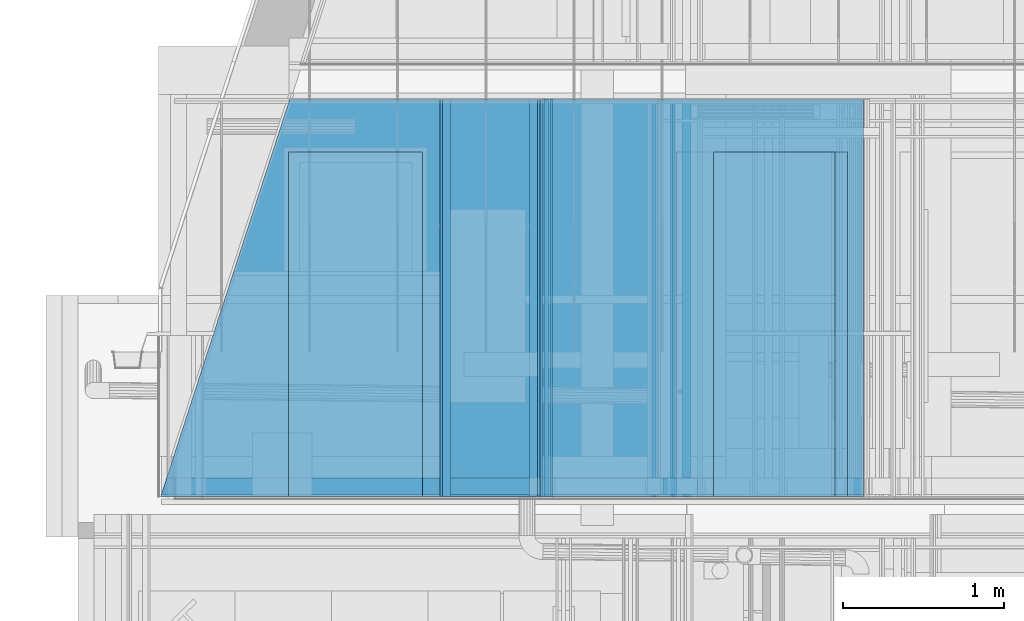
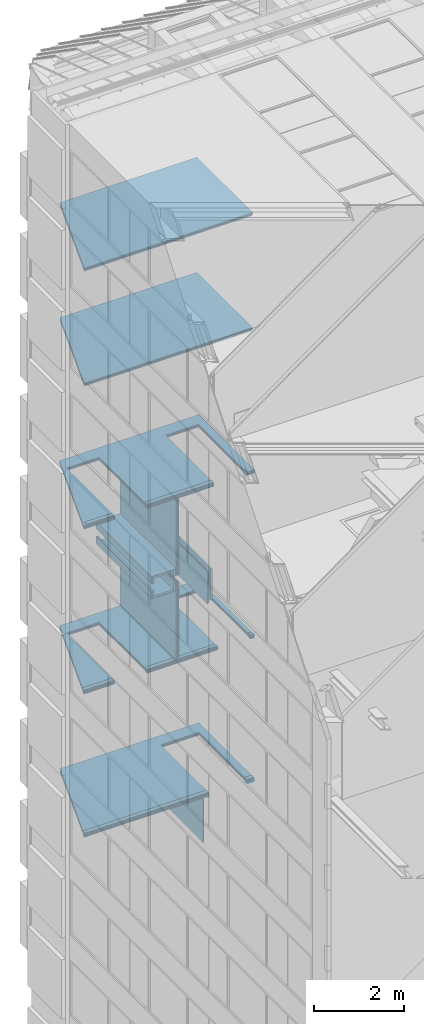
# One storey, part 135 of 583: 49 building element parts, 5 openings, 15 elements without a shape of their own.
"""IFC2X3 building model written with IfcOpenShell, lengths in metres."""

import ifcopenshell
import ifcopenshell.guid

model = None  # the IFC model being written
_history = None  # IfcOwnerHistory: only IFC2X3 demands one
_inside = {}  # id of a spatial element -> (the spatial element, [elements in it])
_under = {}  # id of a project, library or spatial element -> (it, [spatial elements below it])
_declared = {}  # id of a project -> (the project, [libraries it declares])
_typed = {}  # id of a type object -> (the type object, [elements of that type])
_made_of = {}  # id of a material, layer set ... -> (it, [elements and type objects made of it])


def new_model(schema):
    """Start an empty IFC model of exactly this schema.

    Asked for "IFC4X3", IfcOpenShell would pick the latest addendum, in which some entities
    have other attributes; the version numbers below select the first issue.
    IFC2X3 requires an IfcOwnerHistory on every rooted entity: one is made here for all.
    """
    global model, _history
    if schema == "IFC4X3":
        model = ifcopenshell.file(schema_version=(4, 3, 0, 0))
    else:
        model = ifcopenshell.file(schema=schema)
    _inside.clear()
    _under.clear()
    _declared.clear()
    _typed.clear()
    _made_of.clear()
    _history = None
    if model.schema == "IFC2X3":
        org = make("IfcOrganization", Name="unknown")
        user = make(
            "IfcPersonAndOrganization",
            ThePerson=make("IfcPerson", FamilyName="unknown"),
            TheOrganization=org,
        )
        app = make(
            "IfcApplication",
            ApplicationDeveloper=org,
            Version="unknown",
            ApplicationFullName="unknown",
            ApplicationIdentifier="unknown",
        )
        _history = make(
            "IfcOwnerHistory",
            OwningUser=user,
            OwningApplication=app,
            ChangeAction="ADDED",
            CreationDate=0,
        )
    return model


def make(cls, **values):
    """One entity of the class cls with the attributes given. An attribute that is None is left unset."""
    return model.create_entity(
        cls, **{name: value for name, value in values.items() if value is not None}
    )


def entity(cls, *values):
    """Any entity or typed value of the class cls, its attributes in the order of the schema. None: left unset."""
    e = model.create_entity(cls)
    for i, value in enumerate(values):
        if value is not None:
            e[i] = value
    return e


def rooted(cls, **values):
    """An entity with a GlobalId (a new one), such as an element, a storey or a relation."""
    return make(cls, GlobalId=ifcopenshell.guid.new(), OwnerHistory=_history, **values)


def si_unit(unit_type, name, prefix=None):
    """IfcSIUnit, for example si_unit("LENGTHUNIT", "METRE", prefix="MILLI")."""
    return make("IfcSIUnit", UnitType=unit_type, Prefix=prefix, Name=name)


def converted_unit(unit_type, name, factor, base, dimensions=None, offset=None):
    """IfcConversionBasedUnit, such as the inch: factor (a typed value) times the base unit."""
    return make(
        "IfcConversionBasedUnit"
        if offset is None
        else "IfcConversionBasedUnitWithOffset",
        ConversionOffset=offset,
        Dimensions=None
        if dimensions is None
        else entity("IfcDimensionalExponents", *dimensions),
        UnitType=unit_type,
        Name=name,
        ConversionFactor=make(
            "IfcMeasureWithUnit", ValueComponent=factor, UnitComponent=base
        ),
    )


def derived_unit(unit_type, elements):
    """IfcDerivedUnit: a product of units, each with its exponent."""
    return make(
        "IfcDerivedUnit",
        Elements=[
            make("IfcDerivedUnitElement", Unit=unit, Exponent=power)
            for unit, power in elements
        ],
        UnitType=unit_type,
    )


def money_unit(currency):
    """IfcMonetaryUnit."""
    return make("IfcMonetaryUnit", Currency=currency)


def assignment(units):
    """IfcUnitAssignment: the units of a project."""
    return None if units is None else make("IfcUnitAssignment", Units=units)


def point(xyz):
    """IfcCartesianPoint."""
    return None if xyz is None else make("IfcCartesianPoint", Coordinates=xyz)


def direction(xyz):
    """IfcDirection."""
    return None if xyz is None else make("IfcDirection", DirectionRatios=xyz)


def frame(location, z_axis=None, x_axis=None):
    """IfcAxis2Placement3D, a coordinate frame: its origin and axes. An axis left out is left unset."""
    return make(
        "IfcAxis2Placement3D",
        Location=point(location),
        Axis=direction(z_axis),
        RefDirection=direction(x_axis),
    )


def frame_2d(location, x_axis=None):
    """IfcAxis2Placement2D, a coordinate frame in the plane: its origin and x axis."""
    return make(
        "IfcAxis2Placement2D", Location=point(location), RefDirection=direction(x_axis)
    )


def origin_with_axes():
    """The frame at (0, 0, 0) with the z axis (0, 0, 1) and the x axis (1, 0, 0) written out."""
    return frame((0.0, 0.0, 0.0), z_axis=(0.0, 0.0, 1.0), x_axis=(1.0, 0.0, 0.0))


def place(relative_to, where):
    """IfcLocalPlacement: puts the frame where relative to a parent placement (None: the world)."""
    return make(
        "IfcLocalPlacement", PlacementRelTo=relative_to, RelativePlacement=where
    )


def context(
    kind, dimensions, precision=None, world=None, true_north=None, identifier=None
):
    """IfcGeometricRepresentationContext, for example the 3D "Model" context."""
    return make(
        "IfcGeometricRepresentationContext",
        ContextIdentifier=identifier,
        ContextType=kind,
        CoordinateSpaceDimension=dimensions,
        Precision=precision,
        WorldCoordinateSystem=world,
        TrueNorth=true_north,
    )


def subcontext(parent, identifier, kind, view, scale=None):
    """IfcGeometricRepresentationSubContext, for example "Body" below "Model"."""
    return make(
        "IfcGeometricRepresentationSubContext",
        ContextIdentifier=identifier,
        ContextType=kind,
        ParentContext=parent,
        TargetScale=scale,
        TargetView=view,
    )


def project(units=None, contexts=None):
    """IfcProject with its units and contexts."""
    return rooted(
        "IfcProject",
        Name="project",
        RepresentationContexts=contexts,
        UnitsInContext=assignment(units),
    )


def spatial(cls, under=None, at=None, **own):
    """A site, building, storey or space (cls), placed at a placement, below another one or the project."""
    s = rooted(cls, ObjectPlacement=at, **own)
    if under is not None:
        _under.setdefault(under.id(), (under, []))[1].append(s)
    return s


def polyline(points):
    """IfcPolyline through the points."""
    return make("IfcPolyline", Points=[point(p) for p in points])


def profile(cls, at=None, kind="AREA", **sizes):
    """A parametric profile (cls). Its sizes go by their IFC names, for example OverallWidth=200.0."""
    return make(cls, ProfileType=kind, Position=at, **sizes)


def rectangle(**sizes):
    """IfcRectangleProfileDef."""
    return profile("IfcRectangleProfileDef", **sizes)


def outline(outer, holes=None, kind="AREA"):
    """IfcArbitraryClosedProfileDef: a profile drawn as a closed curve; with holes, ...WithVoids."""
    if holes is None:
        return make("IfcArbitraryClosedProfileDef", ProfileType=kind, OuterCurve=outer)
    return make(
        "IfcArbitraryProfileDefWithVoids",
        ProfileType=kind,
        OuterCurve=outer,
        InnerCurves=holes,
    )


def extrude(swept, where, along, depth):
    """IfcExtrudedAreaSolid: the profile swept, set in the frame where, extruded along a direction by depth."""
    return make(
        "IfcExtrudedAreaSolid",
        SweptArea=swept,
        Position=where,
        ExtrudedDirection=direction(along),
        Depth=depth,
    )


def clip(a, b, op="DIFFERENCE"):
    """IfcBooleanClippingResult: the solid a cut by the half space b."""
    return make(
        "IfcBooleanClippingResult", Operator=op, FirstOperand=a, SecondOperand=b
    )


def halfspace(plane, agree):
    """IfcHalfSpaceSolid: all space on one side of the plane z = 0 of the frame plane."""
    return make(
        "IfcHalfSpaceSolid",
        BaseSurface=make("IfcPlane", Position=plane),
        AgreementFlag=agree,
    )


def shape(context_of_items, identifier, shape_type, items):
    """IfcShapeRepresentation: the items that make up one representation, for example the "Body"."""
    return make(
        "IfcShapeRepresentation",
        ContextOfItems=context_of_items,
        RepresentationIdentifier=identifier,
        RepresentationType=shape_type,
        Items=items,
    )


def material(Name=None, Category=None):
    """IfcMaterial."""
    return make("IfcMaterial", Name=Name, Category=Category)


def made_of(thing, what):
    """Note that an element or type object is made of a material, layer set ...; save() writes the relation."""
    if what is not None:
        _made_of.setdefault(what.id(), (what, []))[1].append(thing)
    return thing


def type_object(cls, material=None, **own):
    """A type object (cls), such as IfcWallType, which elements share."""
    return made_of(rooted(cls, **own), material)


def element(
    cls,
    number,
    at=None,
    inside=None,
    cuts=None,
    type_object=None,
    material=None,
    context=None,
    identifier="Body",
    shape_type=None,
    held_by="IfcProductDefinitionShape",
    body=None,
    shapes=None,
    **own,
):
    """One element of the class cls, such as IfcWall. Its Tag is "e" and its number.

    at: its placement. inside: the storey or other place that contains it. cuts: it is an
    opening in that element (IfcRelVoidsElement). A single representation is given by context,
    identifier, shape_type and body (its items); several are given by shapes. held_by: the class
    of the entity that holds the representations. save() writes the other relations.
    """
    e = rooted(cls, Tag="e%d" % number, ObjectPlacement=at, **own)
    if body is not None:
        shapes = [shape(context, identifier, shape_type, body)]
    if shapes is not None:
        e.Representation = make(held_by, Representations=shapes)
    if inside is not None:
        _inside.setdefault(inside.id(), (inside, []))[1].append(e)
    if cuts is not None:
        rooted(
            "IfcRelVoidsElement", RelatingBuildingElement=cuts, RelatedOpeningElement=e
        )
    if type_object is not None:
        _typed.setdefault(type_object.id(), (type_object, []))[1].append(e)
    return made_of(e, material)


def aggregate(whole, parts):
    """IfcRelAggregates: a whole, such as a stair, and the parts it consists of."""
    return rooted("IfcRelAggregates", RelatingObject=whole, RelatedObjects=parts)


def save(model, path):
    """Write the relations noted so far, then the file.

    IfcRelAggregates (storeys below a building ...), IfcRelContainedInSpatialStructure (elements
    in a storey), IfcRelDefinesByType, IfcRelAssociatesMaterial and IfcRelDeclares: one each for
    every whole, place, type object, material and project.
    """
    for whole, parts in _under.values():
        aggregate(whole, parts)
    for where, things in _inside.values():
        rooted(
            "IfcRelContainedInSpatialStructure",
            RelatedElements=things,
            RelatingStructure=where,
        )
    for kind, things in _typed.values():
        rooted("IfcRelDefinesByType", RelatedObjects=things, RelatingType=kind)
    for what, things in _made_of.values():
        rooted("IfcRelAssociatesMaterial", RelatedObjects=things, RelatingMaterial=what)
    for by, libraries in _declared.values():
        rooted("IfcRelDeclares", RelatingContext=by, RelatedDefinitions=libraries)
    model.write(path)


model = new_model("IFC2X3")

# Units and contexts
model_context = context("Model", 3, precision=1e-05, world=origin_with_axes(), true_north=direction((0.0, 1.0)))
body_context = subcontext(model_context, "Body", "Model", "MODEL_VIEW", scale=1.0)
ifc_project = project(units=[si_unit("LENGTHUNIT", "METRE"), si_unit("AREAUNIT", "SQUARE_METRE"), si_unit("VOLUMEUNIT", "CUBIC_METRE"), si_unit("ABSORBEDDOSEUNIT", "GRAY"), si_unit("AMOUNTOFSUBSTANCEUNIT", "MOLE"), si_unit("DOSEEQUIVALENTUNIT", "SIEVERT"), si_unit("ELECTRICCAPACITANCEUNIT", "FARAD"), si_unit("ELECTRICCHARGEUNIT", "COULOMB"), si_unit("ELECTRICCONDUCTANCEUNIT", "SIEMENS"), si_unit("ELECTRICCURRENTUNIT", "AMPERE"), si_unit("ELECTRICRESISTANCEUNIT", "OHM"), si_unit("ELECTRICVOLTAGEUNIT", "VOLT"), si_unit("ENERGYUNIT", "JOULE"), si_unit("FORCEUNIT", "NEWTON"), si_unit("FREQUENCYUNIT", "HERTZ"), si_unit("ILLUMINANCEUNIT", "LUX"), si_unit("INDUCTANCEUNIT", "HENRY"), si_unit("LUMINOUSFLUXUNIT", "LUMEN"), si_unit("LUMINOUSINTENSITYUNIT", "CANDELA"), si_unit("MAGNETICFLUXDENSITYUNIT", "TESLA"), si_unit("MAGNETICFLUXUNIT", "WEBER"), si_unit("MASSUNIT", "GRAM"), converted_unit("PLANEANGLEUNIT", "degree", entity("IfcReal", 0.0174532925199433), si_unit("PLANEANGLEUNIT", "RADIAN"), dimensions=[0, 0, 0, 0, 0, 0, 0]), si_unit("POWERUNIT", "WATT"), si_unit("PRESSUREUNIT", "PASCAL"), si_unit("RADIOACTIVITYUNIT", "BECQUEREL"), si_unit("SOLIDANGLEUNIT", "STERADIAN"), si_unit("THERMODYNAMICTEMPERATUREUNIT", "KELVIN"), si_unit("TIMEUNIT", "SECOND"), derived_unit("ACCELERATIONUNIT", [(si_unit("LENGTHUNIT", "METRE"), 1), (si_unit("TIMEUNIT", "SECOND"), -2)]), derived_unit("ANGULARVELOCITYUNIT", [(converted_unit("PLANEANGLEUNIT", "degree", entity("IfcReal", 0.0174532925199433), si_unit("PLANEANGLEUNIT", "RADIAN"), dimensions=[0, 0, 0, 0, 0, 0, 0]), 1), (si_unit("TIMEUNIT", "SECOND"), -1)]), derived_unit("CURVATUREUNIT", [(converted_unit("PLANEANGLEUNIT", "degree", entity("IfcReal", 0.0174532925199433), si_unit("PLANEANGLEUNIT", "RADIAN"), dimensions=[0, 0, 0, 0, 0, 0, 0]), 1), (si_unit("LENGTHUNIT", "METRE"), -1)]), derived_unit("DYNAMICVISCOSITYUNIT", [(si_unit("PRESSUREUNIT", "PASCAL"), 1), (si_unit("TIMEUNIT", "SECOND"), 1)]), derived_unit("HEATFLUXDENSITYUNIT", [(si_unit("POWERUNIT", "WATT"), 1), (si_unit("LENGTHUNIT", "METRE"), -2)]), derived_unit("HEATINGVALUEUNIT", [(si_unit("ENERGYUNIT", "JOULE"), 1), (si_unit("MASSUNIT", "GRAM"), -1)]), derived_unit("INTEGERCOUNTRATEUNIT", [(si_unit("TIMEUNIT", "SECOND"), -1)]), derived_unit("IONCONCENTRATIONUNIT", [(si_unit("MASSUNIT", "GRAM"), 1), (si_unit("VOLUMEUNIT", "CUBIC_METRE"), -1)]), derived_unit("ISOTHERMALMOISTURECAPACITYUNIT", [(si_unit("VOLUMEUNIT", "CUBIC_METRE"), 1), (si_unit("MASSUNIT", "GRAM"), -1)]), derived_unit("KINEMATICVISCOSITYUNIT", [(si_unit("AREAUNIT", "SQUARE_METRE"), 1), (si_unit("TIMEUNIT", "SECOND"), -1)]), derived_unit("LINEARFORCEUNIT", [(si_unit("FORCEUNIT", "NEWTON"), 1), (si_unit("LENGTHUNIT", "METRE"), -1)]), derived_unit("LINEARMOMENTUNIT", [(si_unit("FORCEUNIT", "NEWTON"), 1), (si_unit("LENGTHUNIT", "METRE"), -1)]), derived_unit("LINEARSTIFFNESSUNIT", [(si_unit("FORCEUNIT", "NEWTON"), 1), (si_unit("LENGTHUNIT", "METRE"), -1)]), derived_unit("LINEARVELOCITYUNIT", [(si_unit("LENGTHUNIT", "METRE"), 1), (si_unit("TIMEUNIT", "SECOND"), -1)]), derived_unit("LUMINOUSINTENSITYDISTRIBUTIONUNIT", [(si_unit("LUMINOUSINTENSITYUNIT", "CANDELA"), 1), (si_unit("LUMINOUSFLUXUNIT", "LUMEN"), -1)]), derived_unit("MASSDENSITYUNIT", [(si_unit("MASSUNIT", "GRAM"), 1), (si_unit("VOLUMEUNIT", "CUBIC_METRE"), -1)]), derived_unit("MASSFLOWRATEUNIT", [(si_unit("MASSUNIT", "GRAM"), 1), (si_unit("TIMEUNIT", "SECOND"), -1)]), derived_unit("MASSPERLENGTHUNIT", [(si_unit("MASSUNIT", "GRAM"), 1), (si_unit("LENGTHUNIT", "METRE"), -1)]), derived_unit("MODULUSOFELASTICITYUNIT", [(si_unit("FORCEUNIT", "NEWTON"), 1), (si_unit("AREAUNIT", "SQUARE_METRE"), -1)]), derived_unit("MODULUSOFLINEARSUBGRADEREACTIONUNIT", [(si_unit("FORCEUNIT", "NEWTON"), 1), (si_unit("LENGTHUNIT", "METRE"), -2)]), derived_unit("MODULUSOFROTATIONALSUBGRADEREACTIONUNIT", [(si_unit("FORCEUNIT", "NEWTON"), 1), (si_unit("LENGTHUNIT", "METRE"), 1)]), derived_unit("MODULUSOFSUBGRADEREACTIONUNIT", [(si_unit("FORCEUNIT", "NEWTON"), 1), (si_unit("VOLUMEUNIT", "CUBIC_METRE"), -1)]), derived_unit("MOISTUREDIFFUSIVITYUNIT", [(si_unit("VOLUMEUNIT", "CUBIC_METRE"), 1), (si_unit("TIMEUNIT", "SECOND"), -1)]), derived_unit("MOLECULARWEIGHTUNIT", [(si_unit("MASSUNIT", "GRAM"), 1), (si_unit("AMOUNTOFSUBSTANCEUNIT", "MOLE"), -1)]), derived_unit("PLANARFORCEUNIT", [(si_unit("FORCEUNIT", "NEWTON"), 1), (si_unit("LENGTHUNIT", "METRE"), -2)]), derived_unit("ROTATIONALFREQUENCYUNIT", [(si_unit("TIMEUNIT", "SECOND"), -1)]), derived_unit("ROTATIONALMASSUNIT", [(si_unit("MASSUNIT", "GRAM"), 1), (si_unit("LENGTHUNIT", "METRE"), 2)]), derived_unit("ROTATIONALSTIFFNESSUNIT", [(si_unit("FORCEUNIT", "NEWTON"), 1), (si_unit("LENGTHUNIT", "METRE"), 1), (converted_unit("PLANEANGLEUNIT", "degree", entity("IfcReal", 0.0174532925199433), si_unit("PLANEANGLEUNIT", "RADIAN"), dimensions=[0, 0, 0, 0, 0, 0, 0]), -1)]), derived_unit("SECTIONAREAINTEGRALUNIT", [(si_unit("LENGTHUNIT", "METRE"), 5)]), derived_unit("SECTIONMODULUSUNIT", [(si_unit("LENGTHUNIT", "METRE"), 3)]), derived_unit("SHEARMODULUSUNIT", [(si_unit("FORCEUNIT", "NEWTON"), 1), (si_unit("AREAUNIT", "SQUARE_METRE"), -1)]), derived_unit("SOUNDPOWERUNIT", [(si_unit("ENERGYUNIT", "JOULE"), 1), (si_unit("TIMEUNIT", "SECOND"), -1)]), derived_unit("SPECIFICHEATCAPACITYUNIT", [(si_unit("FORCEUNIT", "NEWTON"), 1), (si_unit("MASSUNIT", "GRAM"), -1), (si_unit("THERMODYNAMICTEMPERATUREUNIT", "KELVIN"), -1)]), derived_unit("TEMPERATUREGRADIENTUNIT", [(si_unit("THERMODYNAMICTEMPERATUREUNIT", "KELVIN"), 1), (si_unit("LENGTHUNIT", "METRE"), -1)]), derived_unit("THERMALADMITTANCEUNIT", [(si_unit("POWERUNIT", "WATT"), 1), (si_unit("AREAUNIT", "SQUARE_METRE"), -1), (si_unit("THERMODYNAMICTEMPERATUREUNIT", "KELVIN"), -1)]), derived_unit("THERMALCONDUCTANCEUNIT", [(si_unit("POWERUNIT", "WATT"), 1), (si_unit("LENGTHUNIT", "METRE"), -1), (si_unit("THERMODYNAMICTEMPERATUREUNIT", "KELVIN"), -1)]), derived_unit("THERMALEXPANSIONCOEFFICIENTUNIT", [(si_unit("THERMODYNAMICTEMPERATUREUNIT", "KELVIN"), -1)]), derived_unit("THERMALRESISTANCEUNIT", [(si_unit("AREAUNIT", "SQUARE_METRE"), 1), (si_unit("POWERUNIT", "WATT"), -1)]), derived_unit("THERMALTRANSMITTANCEUNIT", [(si_unit("POWERUNIT", "WATT"), 1), (si_unit("AREAUNIT", "SQUARE_METRE"), -1), (si_unit("THERMODYNAMICTEMPERATUREUNIT", "KELVIN"), -1)]), derived_unit("TORQUEUNIT", [(si_unit("FORCEUNIT", "NEWTON"), 1), (si_unit("LENGTHUNIT", "METRE"), 1)]), derived_unit("VAPORPERMEABILITYUNIT", [(si_unit("MASSUNIT", "GRAM"), 1), (si_unit("TIMEUNIT", "SECOND"), -1)]), derived_unit("VOLUMETRICFLOWRATEUNIT", [(si_unit("VOLUMEUNIT", "CUBIC_METRE"), 1), (si_unit("TIMEUNIT", "SECOND"), -1)]), derived_unit("WARPINGCONSTANTUNIT", [(si_unit("LENGTHUNIT", "METRE"), 6)]), derived_unit("WARPINGMOMENTUNIT", [(si_unit("FORCEUNIT", "NEWTON"), 1), (si_unit("LENGTHUNIT", "METRE"), 2)]), money_unit("GBP")], contexts=[model_context])

# Site, building, storey
site_placement = place(None, origin_with_axes())
site = spatial("IfcSite", under=ifc_project, at=site_placement, Name="Site", CompositionType="ELEMENT")
building_placement = place(site_placement, origin_with_axes())
building = spatial("IfcBuilding", under=site, at=building_placement, Name="Building01", CompositionType="ELEMENT")
storey_placement = place(building_placement, frame((0.0, 0.0, 20.78), z_axis=(0.0, 0.0, 1.0), x_axis=(1.0, 0.0, 0.0)))
storey = spatial("IfcBuildingStorey", under=building, at=storey_placement, Name="RL", CompositionType="ELEMENT", Elevation=20.78)

# Wall, building element parts
wall_type_1 = type_object("IfcWallType", Name="SHE_A-Walls_Type05b_Partition_80mm", PredefinedType="NOTDEFINED")
wall_1_placement = place(storey_placement, frame((2.896761, 14.98, -9.498), z_axis=(0.0, 1.0, 0.0), x_axis=(0.0, 0.0, 1.0)))
wall_1 = element("IfcWall", 1, at=wall_1_placement, inside=storey, type_object=wall_type_1, Name="5B", ObjectType="SHE_A-Walls_Type05b_Partition_80mm")
ifc_material_1 = material(Name="A_BSUK_Insulation")
placement_1 = place(wall_1_placement, origin_with_axes())
building_element_part_1 = element("IfcBuildingElementPart", 2, at=placement_1, material=ifc_material_1, Name="1", context=body_context, shape_type="SweptSolid", body=[
    extrude(rectangle(XDim=2.118, YDim=0.025, at=frame_2d((1.059, 0.0125), x_axis=(-1.0, 0.0))), origin_with_axes(), (0.0, 0.0, 1.0), 2.468),
])
ifc_material_2 = material(Name="A_BSUK_WallInternal_Finishes_Plasterboard")
building_element_part_2 = element("IfcBuildingElementPart", 3, at=placement_1, material=ifc_material_2, Name="3", context=body_context, shape_type="SweptSolid", body=[
    extrude(rectangle(XDim=2.09, YDim=0.015, at=frame_2d((1.073, 0.0455), x_axis=(-1.0, 0.0))), origin_with_axes(), (0.0, 0.0, 1.0), 2.468),
])
building_element_part_3 = element("IfcBuildingElementPart", 4, at=placement_1, material=ifc_material_2, Name="4", context=body_context, shape_type="SweptSolid", body=[
    extrude(rectangle(XDim=2.09, YDim=0.015, at=frame_2d((1.073, -0.0195), x_axis=(-1.0, 0.0))), origin_with_axes(), (0.0, 0.0, 1.0), 2.468),
])
aggregate(wall_1, [building_element_part_1, building_element_part_2, building_element_part_3])

wall_2_placement = place(storey_placement, frame((2.922761, 14.98, -5.063), z_axis=(0.0, 1.0, 0.0), x_axis=(0.0, 0.0, -1.0)))
wall_2 = element("IfcWall", 5, at=wall_2_placement, inside=storey, type_object=wall_type_1, Name="5B", ObjectType="SHE_A-Walls_Type05b_Partition_80mm")
placement_2 = place(wall_2_placement, origin_with_axes())
building_element_part_4 = element("IfcBuildingElementPart", 6, at=placement_2, material=ifc_material_1, Name="1", context=body_context, shape_type="SweptSolid", body=[
    extrude(rectangle(XDim=2.117, YDim=0.025, at=frame_2d((1.0585, 0.0125), x_axis=(-1.0, 0.0))), origin_with_axes(), (0.0, 0.0, 1.0), 2.468),
])
building_element_part_5 = element("IfcBuildingElementPart", 7, at=placement_2, material=ifc_material_2, Name="3", context=body_context, shape_type="SweptSolid", body=[
    extrude(rectangle(XDim=2.09, YDim=0.015, at=frame_2d((1.072, 0.0455), x_axis=(-1.0, 0.0))), origin_with_axes(), (0.0, 0.0, 1.0), 2.468),
])
building_element_part_6 = element("IfcBuildingElementPart", 8, at=placement_2, material=ifc_material_2, Name="4", context=body_context, shape_type="SweptSolid", body=[
    extrude(rectangle(XDim=2.105, YDim=0.015, at=frame_2d((1.0645, -0.0195), x_axis=(-1.0, 0.0))), origin_with_axes(), (0.0, 0.0, 1.0), 2.468),
])
aggregate(wall_2, [building_element_part_4, building_element_part_5, building_element_part_6])

wall_3_placement = place(storey_placement, frame((4.844, 14.98, 1.907024), z_axis=(0.0, 1.0, 0.0), x_axis=(-1.0, 0.0, 0.0)))
wall_3 = element("IfcWall", 9, at=wall_3_placement, inside=storey, type_object=wall_type_1, Name="5B", ObjectType="SHE_A-Walls_Type05b_Partition_80mm")
placement_3 = place(wall_3_placement, origin_with_axes())
building_element_part_7 = element("IfcBuildingElementPart", 10, at=placement_3, material=ifc_material_1, Name="1", context=body_context, shape_type="Clipping", body=[
    clip(extrude(rectangle(XDim=4.320143, YDim=0.025, at=frame_2d((2.160072, 0.0125), x_axis=(-1.0, 0.0))), origin_with_axes(), (0.0, 0.0, 1.0), 2.468), halfspace(frame((3.907606, 0.0, 1.269658), z_axis=(-0.95105652, 0.0, -0.30901699), x_axis=(0.0, -1.0, 0.0)), True)),
])
building_element_part_8 = element("IfcBuildingElementPart", 11, at=placement_3, material=ifc_material_2, Name="3", context=body_context, shape_type="Clipping", body=[
    clip(extrude(rectangle(XDim=4.308143, YDim=0.015, at=frame_2d((2.166072, 0.0455), x_axis=(-1.0, 0.0))), origin_with_axes(), (0.0, 0.0, 1.0), 2.468), halfspace(frame((3.907606, 0.0, 1.269658), z_axis=(-0.95105652, 0.0, -0.30901699), x_axis=(0.0, -1.0, 0.0)), True)),
])
building_element_part_9 = element("IfcBuildingElementPart", 12, at=placement_3, material=ifc_material_2, Name="4", context=body_context, shape_type="Clipping", body=[
    clip(extrude(rectangle(XDim=4.293143, YDim=0.015, at=frame_2d((2.173572, -0.0195), x_axis=(-1.0, 0.0))), origin_with_axes(), (0.0, 0.0, 1.0), 2.468), halfspace(frame((3.907606, 0.0, 1.269658), z_axis=(-0.95105652, 0.0, -0.30901699), x_axis=(0.0, -1.0, 0.0)), True)),
])
aggregate(wall_3, [building_element_part_7, building_element_part_8, building_element_part_9])

wall_4_placement = place(storey_placement, frame((4.844, 14.98, -1.203024), z_axis=(0.0, 1.0, 0.0), x_axis=(-1.0, 0.0, 0.0)))
wall_4 = element("IfcWall", 13, at=wall_4_placement, inside=storey, type_object=wall_type_1, Name="5B", ObjectType="SHE_A-Walls_Type05b_Partition_80mm")
placement_4 = place(wall_4_placement, origin_with_axes())
building_element_part_10 = element("IfcBuildingElementPart", 14, at=placement_4, material=ifc_material_1, Name="1", context=body_context, shape_type="Clipping", body=[
    clip(extrude(rectangle(XDim=4.320143, YDim=0.025, at=frame_2d((2.160072, 0.0125), x_axis=(-1.0, 0.0))), origin_with_axes(), (0.0, 0.0, 1.0), 2.468), halfspace(frame((3.907606, 0.0, 1.269658), z_axis=(-0.95105652, 0.0, -0.30901699), x_axis=(0.0, -1.0, 0.0)), True)),
])
building_element_part_11 = element("IfcBuildingElementPart", 15, at=placement_4, material=ifc_material_2, Name="3", context=body_context, shape_type="Clipping", body=[
    clip(extrude(rectangle(XDim=4.308143, YDim=0.015, at=frame_2d((2.166072, 0.0455), x_axis=(-1.0, 0.0))), origin_with_axes(), (0.0, 0.0, 1.0), 2.468), halfspace(frame((3.907606, 0.0, 1.269658), z_axis=(-0.95105652, 0.0, -0.30901699), x_axis=(0.0, -1.0, 0.0)), True)),
])
building_element_part_12 = element("IfcBuildingElementPart", 16, at=placement_4, material=ifc_material_2, Name="4", context=body_context, shape_type="Clipping", body=[
    clip(extrude(rectangle(XDim=4.293143, YDim=0.015, at=frame_2d((2.173572, -0.0195), x_axis=(-1.0, 0.0))), origin_with_axes(), (0.0, 0.0, 1.0), 2.468), halfspace(frame((3.907606, 0.0, 1.269658), z_axis=(-0.95105652, 0.0, -0.30901699), x_axis=(0.0, -1.0, 0.0)), True)),
])
aggregate(wall_4, [building_element_part_10, building_element_part_11, building_element_part_12])

wall_type_2 = type_object("IfcWallType", Name="SHE_A-Walls_Type05c_PreWallShell_65mm", PredefinedType="NOTDEFINED")
wall_5_placement = place(storey_placement, frame((2.264668, 14.98, -7.045002), z_axis=(0.0, 1.0, 0.0), x_axis=(1.0, 0.0, 0.0)))
wall_5 = element("IfcWall", 17, at=wall_5_placement, inside=storey, type_object=wall_type_2, Name="5C", ObjectType="SHE_A-Walls_Type05c_PreWallShell_65mm")
ifc_material_3 = material(Name="A_BSUK_OpeningsClearance")
placement_5 = place(wall_5_placement, origin_with_axes())
building_element_part_13 = element("IfcBuildingElementPart", 18, at=placement_5, material=ifc_material_3, Name="1", context=body_context, shape_type="SweptSolid", body=[
    extrude(rectangle(XDim=0.540094, YDim=0.05, at=frame_2d((0.270047, -0.025), x_axis=(-1.0, 0.0))), origin_with_axes(), (0.0, 0.0, 1.0), 2.468),
])
ifc_material_4 = material(Name="A_BSUK_Walls_Timber")
building_element_part_14 = element("IfcBuildingElementPart", 19, at=placement_5, material=ifc_material_4, Name="2", context=body_context, shape_type="SweptSolid", body=[
    extrude(outline(polyline([(0.590094, -0.05), (0.0, -0.05), (-0.015, -0.065), (0.605094, -0.065), (0.590094, -0.05)])), origin_with_axes(), (0.0, 0.0, 1.0), 2.468),
])
aggregate(wall_5, [building_element_part_13, building_element_part_14])

wall_6_placement = place(storey_placement, frame((2.314668, 14.98, -7.18), z_axis=(0.0, 1.0, 0.0), x_axis=(0.0, 0.0, 1.0)))
wall_6 = element("IfcWall", 20, at=wall_6_placement, inside=storey, type_object=wall_type_2, Name="5C", ObjectType="SHE_A-Walls_Type05c_PreWallShell_65mm")
placement_6 = place(wall_6_placement, origin_with_axes())
building_element_part_15 = element("IfcBuildingElementPart", 21, at=placement_6, material=ifc_material_3, Name="1", context=body_context, shape_type="SweptSolid", body=[
    extrude(rectangle(XDim=0.135, YDim=0.05, at=frame_2d((0.0675, -0.025), x_axis=(-1.0, 0.0))), origin_with_axes(), (0.0, 0.0, 1.0), 2.468),
])
building_element_part_16 = element("IfcBuildingElementPart", 22, at=placement_6, material=ifc_material_4, Name="2", context=body_context, shape_type="SweptSolid", body=[
    extrude(outline(polyline([(0.184998, -0.05), (0.0, -0.05), (0.0, -0.065), (0.199998, -0.065), (0.184998, -0.05)])), origin_with_axes(), (0.0, 0.0, 1.0), 2.468),
])
aggregate(wall_6, [building_element_part_15, building_element_part_16])

wall_7_placement = place(storey_placement, frame((2.804761, 14.98, -7.18), z_axis=(0.0, 1.0, 0.0), x_axis=(0.0, 0.0, 1.0)))
wall_7 = element("IfcWall", 23, at=wall_7_placement, inside=storey, type_object=wall_type_2, Name="5C", ObjectType="SHE_A-Walls_Type05c_PreWallShell_65mm")
placement_7 = place(wall_7_placement, origin_with_axes())
building_element_part_17 = element("IfcBuildingElementPart", 24, at=placement_7, material=ifc_material_3, Name="1", context=body_context, shape_type="SweptSolid", body=[
    extrude(rectangle(XDim=0.185, YDim=0.05, at=frame_2d((0.0925, 0.025), x_axis=(-1.0, 0.0))), origin_with_axes(), (0.0, 0.0, 1.0), 2.468),
])
building_element_part_18 = element("IfcBuildingElementPart", 25, at=placement_7, material=ifc_material_4, Name="2", context=body_context, shape_type="SweptSolid", body=[
    extrude(outline(polyline([(0.199998, 0.065), (0.015, 0.065), (0.015, 0.05), (0.184998, 0.05), (0.199998, 0.065)])), origin_with_axes(), (0.0, 0.0, 1.0), 2.468),
])
aggregate(wall_7, [building_element_part_17, building_element_part_18])

wall_8_placement = place(storey_placement, frame((2.264668, 14.98, -7.514998), z_axis=(0.0, 1.0, 0.0), x_axis=(1.0, 0.0, 0.0)))
wall_8 = element("IfcWall", 26, at=wall_8_placement, inside=storey, type_object=wall_type_2, Name="5C", ObjectType="SHE_A-Walls_Type05c_PreWallShell_65mm")
placement_8 = place(wall_8_placement, origin_with_axes())
building_element_part_19 = element("IfcBuildingElementPart", 27, at=placement_8, material=ifc_material_3, Name="1", context=body_context, shape_type="SweptSolid", body=[
    extrude(outline(polyline([(0.590094, 0.05), (0.0, 0.05), (0.0, 0.0), (0.540094, 0.0), (0.590094, 0.05)])), origin_with_axes(), (0.0, 0.0, 1.0), 2.468),
])
building_element_part_20 = element("IfcBuildingElementPart", 28, at=placement_8, material=ifc_material_4, Name="2", context=body_context, shape_type="SweptSolid", body=[
    extrude(outline(polyline([(0.605094, 0.065), (-0.015, 0.065), (0.0, 0.05), (0.590094, 0.05), (0.605094, 0.065)])), origin_with_axes(), (0.0, 0.0, 1.0), 2.468),
])
aggregate(wall_8, [building_element_part_19, building_element_part_20])

wall_9_placement = place(storey_placement, frame((2.314668, 14.98, -7.384998), z_axis=(0.0, 1.0, 0.0), x_axis=(0.0, 0.0, -1.0)))
wall_9 = element("IfcWall", 29, at=wall_9_placement, inside=storey, type_object=wall_type_2, Name="5C", ObjectType="SHE_A-Walls_Type05c_PreWallShell_65mm")
placement_9 = place(wall_9_placement, origin_with_axes())
building_element_part_21 = element("IfcBuildingElementPart", 30, at=placement_9, material=ifc_material_3, Name="1", context=body_context, shape_type="SweptSolid", body=[
    extrude(rectangle(XDim=0.13, YDim=0.05, at=frame_2d((0.065, 0.025), x_axis=(-1.0, 0.0))), origin_with_axes(), (0.0, 0.0, 1.0), 2.468),
])
building_element_part_22 = element("IfcBuildingElementPart", 31, at=placement_9, material=ifc_material_4, Name="2", context=body_context, shape_type="SweptSolid", body=[
    extrude(outline(polyline([(0.195, 0.065), (-0.004998, 0.065), (-0.004998, 0.05), (0.18, 0.05), (0.195, 0.065)])), origin_with_axes(), (0.0, 0.0, 1.0), 2.468),
])
aggregate(wall_9, [building_element_part_21, building_element_part_22])

wall_10_placement = place(storey_placement, frame((2.804761, 14.98, -7.365), z_axis=(0.0, 1.0, 0.0), x_axis=(0.0, 0.0, -1.0)))
wall_10 = element("IfcWall", 32, at=wall_10_placement, inside=storey, type_object=wall_type_2, Name="5C", ObjectType="SHE_A-Walls_Type05c_PreWallShell_65mm")
placement_10 = place(wall_10_placement, origin_with_axes())
building_element_part_23 = element("IfcBuildingElementPart", 33, at=placement_10, material=ifc_material_3, Name="1", context=body_context, shape_type="SweptSolid", body=[
    extrude(rectangle(XDim=0.199998, YDim=0.05, at=frame_2d((0.099999, -0.025), x_axis=(-1.0, 0.0))), origin_with_axes(), (0.0, 0.0, 1.0), 2.468),
])
building_element_part_24 = element("IfcBuildingElementPart", 34, at=placement_10, material=ifc_material_4, Name="2", context=body_context, shape_type="SweptSolid", body=[
    extrude(outline(polyline([(0.199998, -0.05), (0.0, -0.05), (0.0, -0.065), (0.214998, -0.065), (0.199998, -0.05)])), origin_with_axes(), (0.0, 0.0, 1.0), 2.468),
])
aggregate(wall_10, [building_element_part_23, building_element_part_24])

wall_type_3 = type_object("IfcWallType", Name="SHE_A-Walls_Type01d_Partywall_200mm_twin", PredefinedType="NOTDEFINED")
wall_11_placement = place(storey_placement, frame((3.78, 14.98, -8.13), z_axis=(0.0, 1.0, 0.0), x_axis=(0.0, 0.0, 1.0)))
wall_11 = element("IfcWall", 35, at=wall_11_placement, inside=storey, type_object=wall_type_3, Name="1D", ObjectType="SHE_A-Walls_Type01d_Partywall_200mm_twin")
placement_11 = place(wall_11_placement, origin_with_axes())
building_element_part_25 = element("IfcBuildingElementPart", 36, at=placement_11, material=ifc_material_1, Name="1", context=body_context, shape_type="SweptSolid", body=[
    extrude(outline(polyline([(0.825, 0.025), (0.025, 0.025), (-0.025, -0.025), (0.825, -0.025), (0.825, 0.025)])), origin_with_axes(), (0.0, 0.0, 1.0), 2.468),
])
building_element_part_26 = element("IfcBuildingElementPart", 37, at=placement_11, material=ifc_material_2, Name="5", context=body_context, shape_type="SweptSolid", body=[
    extrude(outline(polyline([(0.78, -0.07), (-0.07, -0.07), (-0.085, -0.085), (0.78, -0.085), (0.78, -0.07)])), origin_with_axes(), (0.0, 0.0, 1.0), 2.468),
])
building_element_part_27 = element("IfcBuildingElementPart", 38, at=placement_11, material=ifc_material_2, Name="6", context=body_context, shape_type="SweptSolid", body=[
    extrude(outline(polyline([(0.765, -0.085), (-0.085, -0.085), (-0.1, -0.1), (0.765, -0.1), (0.765, -0.085)])), origin_with_axes(), (0.0, 0.0, 1.0), 2.468),
])
aggregate(wall_11, [building_element_part_25, building_element_part_26, building_element_part_27])

# Wall, opening, building element parts
wall_12_placement = place(storey_placement, frame((4.88, 14.98, -13.393), z_axis=(0.0, 1.0, 0.0), x_axis=(-1.0, 0.0, 0.0)))
wall_12 = element("IfcWall", 39, at=wall_12_placement, inside=storey, type_object=wall_type_1, Name="5B", ObjectType="SHE_A-Walls_Type05b_Partition_80mm")
opening_1_placement = place(wall_12_placement, frame((0.178061, 0.093, 0.0), z_axis=(0.0, 0.0, 1.0), x_axis=(1.0, 0.0, 0.0)))
element("IfcOpeningElement", 40, at=opening_1_placement, cuts=wall_12, Name="Opening", ObjectType="Opening", context=body_context, shape_type="SweptSolid", body=[
    extrude(rectangle(XDim=0.984, YDim=2.142, at=frame_2d((-0.492, 1.071), x_axis=(-1.0, 0.0))), frame((0.0, -28.943154, 0.0), z_axis=(0.0, 1.0, 0.0), x_axis=(-1.0, 0.0, 0.0)), (0.0, 0.0, 1.0), 57.886307),
])
placement_12 = place(wall_12_placement, origin_with_axes())
building_element_part_28 = element("IfcBuildingElementPart", 41, at=placement_12, material=ifc_material_1, Name="1", context=body_context, shape_type="Clipping", body=[
    clip(extrude(rectangle(XDim=4.356143, YDim=0.025, at=frame_2d((2.178072, 0.0125), x_axis=(-1.0, 0.0))), origin_with_axes(), (0.0, 0.0, 1.0), 2.468), halfspace(frame((3.940169, 0.0, 1.280238), z_axis=(-0.95105652, 0.0, -0.30901699), x_axis=(0.0, -1.0, 0.0)), True)),
])
building_element_part_29 = element("IfcBuildingElementPart", 42, at=placement_12, material=ifc_material_4, Name="2", context=body_context, shape_type="Clipping", body=[
    clip(extrude(rectangle(XDim=4.33627, YDim=0.015, at=frame_2d((2.183135, 0.0605), x_axis=(-1.0, 0.0))), frame((0.0, 0.0, 0.015), z_axis=(0.0, 0.0, 1.0), x_axis=(1.0, 0.0, 0.0)), (0.0, 0.0, 1.0), 0.1), halfspace(frame((3.940169, 0.0, 1.280238), z_axis=(-0.95105652, 0.0, -0.30901699), x_axis=(0.0, -1.0, 0.0)), True)),
])
building_element_part_30 = element("IfcBuildingElementPart", 43, at=placement_12, material=ifc_material_2, Name="3", context=body_context, shape_type="Clipping", body=[
    clip(extrude(rectangle(XDim=4.356143, YDim=0.015, at=frame_2d((2.178072, 0.0455), x_axis=(-1.0, 0.0))), origin_with_axes(), (0.0, 0.0, 1.0), 2.468), halfspace(frame((3.940169, 0.0, 1.280238), z_axis=(-0.95105652, 0.0, -0.30901699), x_axis=(0.0, -1.0, 0.0)), True)),
])
building_element_part_31 = element("IfcBuildingElementPart", 44, at=placement_12, material=ifc_material_2, Name="4", context=body_context, shape_type="SweptSolid", body=[
    extrude(rectangle(XDim=1.275061, YDim=0.015, at=frame_2d((0.63753, -0.0195), x_axis=(-1.0, 0.0))), origin_with_axes(), (0.0, 0.0, 1.0), 2.468),
])
building_element_part_32 = element("IfcBuildingElementPart", 45, at=placement_12, material=ifc_material_4, Name="5", context=body_context, shape_type="SweptSolid", body=[
    extrude(rectangle(XDim=1.245061, YDim=0.015, at=frame_2d((0.62253, -0.0345), x_axis=(-1.0, 0.0))), frame((0.0, 0.0, 0.015), z_axis=(0.0, 0.0, 1.0), x_axis=(1.0, 0.0, 0.0)), (0.0, 0.0, 1.0), 0.1),
])
building_element_part_33 = element("IfcBuildingElementPart", 46, at=placement_12, material=ifc_material_4, Name="6", context=body_context, shape_type="Clipping", body=[
    clip(extrude(rectangle(XDim=4.35127, YDim=0.015, at=frame_2d((2.175635, -0.0345), x_axis=(-1.0, 0.0))), frame((0.0, 0.0, 0.015), z_axis=(0.0, 0.0, 1.0), x_axis=(1.0, 0.0, 0.0)), (0.0, 0.0, 1.0), 0.1), halfspace(frame((3.940169, 0.0, 1.280238), z_axis=(-0.95105652, 0.0, -0.30901699), x_axis=(0.0, -1.0, 0.0)), True)),
])
building_element_part_34 = element("IfcBuildingElementPart", 47, at=placement_12, material=ifc_material_2, Name="7", context=body_context, shape_type="Clipping", body=[
    clip(extrude(rectangle(XDim=4.356143, YDim=0.015, at=frame_2d((2.178072, -0.0195), x_axis=(-1.0, 0.0))), origin_with_axes(), (0.0, 0.0, 1.0), 2.468), halfspace(frame((3.940169, 0.0, 1.280238), z_axis=(-0.95105652, 0.0, -0.30901699), x_axis=(0.0, -1.0, 0.0)), True)),
])
aggregate(wall_12, [building_element_part_28, building_element_part_29, building_element_part_30, building_element_part_31, building_element_part_32, building_element_part_33, building_element_part_34])

# Wall, openings, building element parts
wall_13_placement = place(storey_placement, frame((4.88, 14.98, -9.523), z_axis=(0.0, 1.0, 0.0), x_axis=(-1.0, 0.0, 0.0)))
wall_13 = element("IfcWall", 48, at=wall_13_placement, inside=storey, type_object=wall_type_1, Name="5B", ObjectType="SHE_A-Walls_Type05b_Partition_80mm")
opening_2_placement = place(wall_13_placement, frame((0.098239, 0.093, 0.0), z_axis=(0.0, 0.0, 1.0), x_axis=(1.0, 0.0, 0.0)))
element("IfcOpeningElement", 49, at=opening_2_placement, cuts=wall_13, Name="Opening", ObjectType="Opening", context=body_context, shape_type="SweptSolid", body=[
    extrude(rectangle(XDim=0.834, YDim=2.142, at=frame_2d((-0.417, 1.071), x_axis=(-1.0, 0.0))), frame((0.0, -28.942756, 0.0), z_axis=(0.0, 1.0, 0.0), x_axis=(-1.0, 0.0, 0.0)), (0.0, 0.0, 1.0), 57.885512),
])
opening_3_placement = place(wall_13_placement, frame((2.738061, 0.093, 0.0), z_axis=(0.0, 0.0, 1.0), x_axis=(1.0, 0.0, 0.0)))
element("IfcOpeningElement", 50, at=opening_3_placement, cuts=wall_13, Name="Opening", ObjectType="Opening", context=body_context, shape_type="SweptSolid", body=[
    extrude(rectangle(XDim=0.834, YDim=2.142, at=frame_2d((-0.417, 1.071), x_axis=(-1.0, 0.0))), frame((0.0, -28.942756, 0.0), z_axis=(0.0, 1.0, 0.0), x_axis=(-1.0, 0.0, 0.0)), (0.0, 0.0, 1.0), 57.885512),
])
placement_13 = place(wall_13_placement, origin_with_axes())
building_element_part_35 = element("IfcBuildingElementPart", 51, at=placement_13, material=ifc_material_1, Name="1", context=body_context, shape_type="Clipping", body=[
    clip(extrude(rectangle(XDim=4.366658, YDim=0.025, at=frame_2d((2.183329, 0.0125), x_axis=(-1.0, 0.0))), origin_with_axes(), (0.0, 0.0, 1.0), 2.468), halfspace(frame((3.949679, 0.0, 1.283329), z_axis=(-0.95105652, 0.0, -0.30901699), x_axis=(0.0, -1.0, 0.0)), True)),
])
building_element_part_36 = element("IfcBuildingElementPart", 52, at=placement_13, material=ifc_material_4, Name="2", context=body_context, shape_type="SweptSolid", body=[
    extrude(rectangle(XDim=1.930239, YDim=0.015, at=frame_2d((0.965119, 0.0605), x_axis=(-1.0, 0.0))), frame((0.0, 0.0, 0.015), z_axis=(0.0, 0.0, 1.0), x_axis=(1.0, 0.0, 0.0)), (0.0, 0.0, 1.0), 0.1),
])
building_element_part_37 = element("IfcBuildingElementPart", 53, at=placement_13, material=ifc_material_2, Name="3", context=body_context, shape_type="SweptSolid", body=[
    extrude(rectangle(XDim=1.945239, YDim=0.015, at=frame_2d((0.972619, 0.0455), x_axis=(-1.0, 0.0))), origin_with_axes(), (0.0, 0.0, 1.0), 2.468),
])
building_element_part_38 = element("IfcBuildingElementPart", 54, at=placement_13, material=ifc_material_2, Name="4", context=body_context, shape_type="Clipping", body=[
    clip(extrude(rectangle(XDim=4.366658, YDim=0.015, at=frame_2d((2.183329, -0.0195), x_axis=(-1.0, 0.0))), origin_with_axes(), (0.0, 0.0, 1.0), 2.468), halfspace(frame((3.949679, 0.0, 1.283329), z_axis=(-0.95105652, 0.0, -0.30901699), x_axis=(0.0, -1.0, 0.0)), True)),
])
building_element_part_39 = element("IfcBuildingElementPart", 55, at=placement_13, material=ifc_material_4, Name="5", context=body_context, shape_type="Clipping", body=[
    clip(extrude(rectangle(XDim=4.361784, YDim=0.015, at=frame_2d((2.180892, -0.0345), x_axis=(-1.0, 0.0))), frame((0.0, 0.0, 0.015), z_axis=(0.0, 0.0, 1.0), x_axis=(1.0, 0.0, 0.0)), (0.0, 0.0, 1.0), 0.1), halfspace(frame((3.949679, 0.0, 1.283329), z_axis=(-0.95105652, 0.0, -0.30901699), x_axis=(0.0, -1.0, 0.0)), True)),
])
building_element_part_40 = element("IfcBuildingElementPart", 56, at=placement_13, material=ifc_material_4, Name="6", context=body_context, shape_type="Clipping", body=[
    clip(extrude(rectangle(XDim=4.361784, YDim=0.015, at=frame_2d((2.180892, 0.0605), x_axis=(-1.0, 0.0))), frame((0.0, 0.0, 0.015), z_axis=(0.0, 0.0, 1.0), x_axis=(1.0, 0.0, 0.0)), (0.0, 0.0, 1.0), 0.1), halfspace(frame((3.949679, 0.0, 1.283329), z_axis=(-0.95105652, 0.0, -0.30901699), x_axis=(0.0, -1.0, 0.0)), True)),
])
building_element_part_41 = element("IfcBuildingElementPart", 57, at=placement_13, material=ifc_material_2, Name="7", context=body_context, shape_type="Clipping", body=[
    clip(extrude(rectangle(XDim=4.366658, YDim=0.015, at=frame_2d((2.183329, 0.0455), x_axis=(-1.0, 0.0))), origin_with_axes(), (0.0, 0.0, 1.0), 2.468), halfspace(frame((3.949679, 0.0, 1.283329), z_axis=(-0.95105652, 0.0, -0.30901699), x_axis=(0.0, -1.0, 0.0)), True)),
])
aggregate(wall_13, [building_element_part_35, building_element_part_36, building_element_part_37, building_element_part_38, building_element_part_39, building_element_part_40, building_element_part_41])

wall_14_placement = place(storey_placement, frame((4.88, 14.98, -5.063), z_axis=(0.0, 1.0, 0.0), x_axis=(-1.0, 0.0, 0.0)))
wall_14 = element("IfcWall", 58, at=wall_14_placement, inside=storey, type_object=wall_type_1, Name="5B", ObjectType="SHE_A-Walls_Type05b_Partition_80mm")
opening_4_placement = place(wall_14_placement, frame((2.738061, -0.027, 0.0), z_axis=(0.0, 0.0, 1.0), x_axis=(1.0, 0.0, 0.0)))
element("IfcOpeningElement", 59, at=opening_4_placement, cuts=wall_14, Name="Opening", ObjectType="Opening", context=body_context, shape_type="SweptSolid", body=[
    extrude(rectangle(XDim=0.834, YDim=2.142, at=frame_2d((0.417, 1.071), x_axis=(1.0, 0.0))), frame((0.0, 5.451381, 0.0), z_axis=(0.0, -1.0, 0.0), x_axis=(1.0, 0.0, 0.0)), (0.0, 0.0, 1.0), 10.902762),
])
opening_5_placement = place(wall_14_placement, frame((0.198239, -0.027, 0.0), z_axis=(0.0, 0.0, 1.0), x_axis=(1.0, 0.0, 0.0)))
element("IfcOpeningElement", 60, at=opening_5_placement, cuts=wall_14, Name="Opening", ObjectType="Opening", context=body_context, shape_type="SweptSolid", body=[
    extrude(rectangle(XDim=2.142, YDim=0.834, at=frame_2d((0.417, 1.071), x_axis=(0.0, -1.0))), frame((0.0, 29.535633, 0.0), z_axis=(0.0, -1.0, 0.0), x_axis=(1.0, 0.0, 0.0)), (0.0, 0.0, 1.0), 59.071267),
])
placement_14 = place(wall_14_placement, origin_with_axes())
building_element_part_42 = element("IfcBuildingElementPart", 61, at=placement_14, material=ifc_material_1, Name="1", context=body_context, shape_type="Clipping", body=[
    clip(extrude(rectangle(XDim=4.366658, YDim=0.025, at=frame_2d((2.183329, 0.0125), x_axis=(-1.0, 0.0))), origin_with_axes(), (0.0, 0.0, 1.0), 2.468), halfspace(frame((3.949679, 0.0, 1.283329), z_axis=(-0.95105652, 0.0, -0.30901699), x_axis=(0.0, -1.0, 0.0)), True)),
])
building_element_part_43 = element("IfcBuildingElementPart", 62, at=placement_14, material=ifc_material_4, Name="2", context=body_context, shape_type="SweptSolid", body=[
    extrude(outline(polyline([(4.2762, 0.068), (0.178, 0.068), (0.163, 0.053), (4.2762, 0.053), (4.2762, 0.068)])), frame((0.0, 0.0, 0.015), z_axis=(0.0, 0.0, 1.0), x_axis=(1.0, 0.0, 0.0)), (0.0, 0.0, 1.0), 0.1),
])
building_element_part_44 = element("IfcBuildingElementPart", 63, at=placement_14, material=ifc_material_2, Name="3", context=body_context, shape_type="Clipping", body=[
    clip(extrude(rectangle(XDim=4.366658, YDim=0.015, at=frame_2d((2.183329, 0.0455), x_axis=(-1.0, 0.0))), origin_with_axes(), (0.0, 0.0, 1.0), 2.468), halfspace(frame((3.949679, 0.0, 1.283329), z_axis=(-0.95105652, 0.0, -0.30901699), x_axis=(0.0, -1.0, 0.0)), True)),
])
building_element_part_45 = element("IfcBuildingElementPart", 64, at=placement_14, material=ifc_material_2, Name="4", context=body_context, shape_type="SweptSolid", body=[
    extrude(rectangle(XDim=1.930239, YDim=0.015, at=frame_2d((0.965119, -0.0195), x_axis=(-1.0, 0.0))), origin_with_axes(), (0.0, 0.0, 1.0), 2.468),
])
building_element_part_46 = element("IfcBuildingElementPart", 65, at=placement_14, material=ifc_material_4, Name="5", context=body_context, shape_type="SweptSolid", body=[
    extrude(rectangle(XDim=1.930239, YDim=0.015, at=frame_2d((0.965119, -0.0345), x_axis=(-1.0, 0.0))), frame((0.0, 0.0, 0.015), z_axis=(0.0, 0.0, 1.0), x_axis=(1.0, 0.0, 0.0)), (0.0, 0.0, 1.0), 0.1),
])
building_element_part_47 = element("IfcBuildingElementPart", 66, at=placement_14, material=ifc_material_4, Name="6", context=body_context, shape_type="SweptSolid", body=[
    extrude(rectangle(XDim=4.2762, YDim=0.015, at=frame_2d((2.1381, -0.0345), x_axis=(-1.0, 0.0))), frame((0.0, 0.0, 0.015), z_axis=(0.0, 0.0, 1.0), x_axis=(1.0, 0.0, 0.0)), (0.0, 0.0, 1.0), 0.1),
])
building_element_part_48 = element("IfcBuildingElementPart", 67, at=placement_14, material=ifc_material_2, Name="7", context=body_context, shape_type="Clipping", body=[
    clip(extrude(rectangle(XDim=2.371419, YDim=0.015, at=frame_2d((3.180948, -0.0195), x_axis=(-1.0, 0.0))), origin_with_axes(), (0.0, 0.0, 1.0), 2.468), halfspace(frame((3.949679, 0.0, 1.283329), z_axis=(-0.95105652, 0.0, -0.30901699), x_axis=(0.0, -1.0, 0.0)), True)),
])
aggregate(wall_14, [building_element_part_42, building_element_part_43, building_element_part_44, building_element_part_45, building_element_part_46, building_element_part_47, building_element_part_48])

# Wall, building element part
wall_15_placement = place(storey_placement, frame((3.566939, 14.98, -14.632902), z_axis=(0.0, 1.0, 0.0), x_axis=(0.0, 0.0, 1.0)))
wall_15 = element("IfcWall", 68, at=wall_15_placement, inside=storey, type_object=wall_type_1, Name="5B", ObjectType="SHE_A-Walls_Type05b_Partition_80mm")
building_element_part_49_placement = place(wall_15_placement, origin_with_axes())
building_element_part_49 = element("IfcBuildingElementPart", 69, at=building_element_part_49_placement, material=ifc_material_1, Name="1", context=body_context, shape_type="SweptSolid", body=[
    extrude(rectangle(XDim=1.239902, YDim=0.025, at=frame_2d((0.619951, 0.0125), x_axis=(-1.0, 0.0))), origin_with_axes(), (0.0, 0.0, 1.0), 2.468),
])
aggregate(wall_15, [building_element_part_49])

save(model, "model.ifc")
